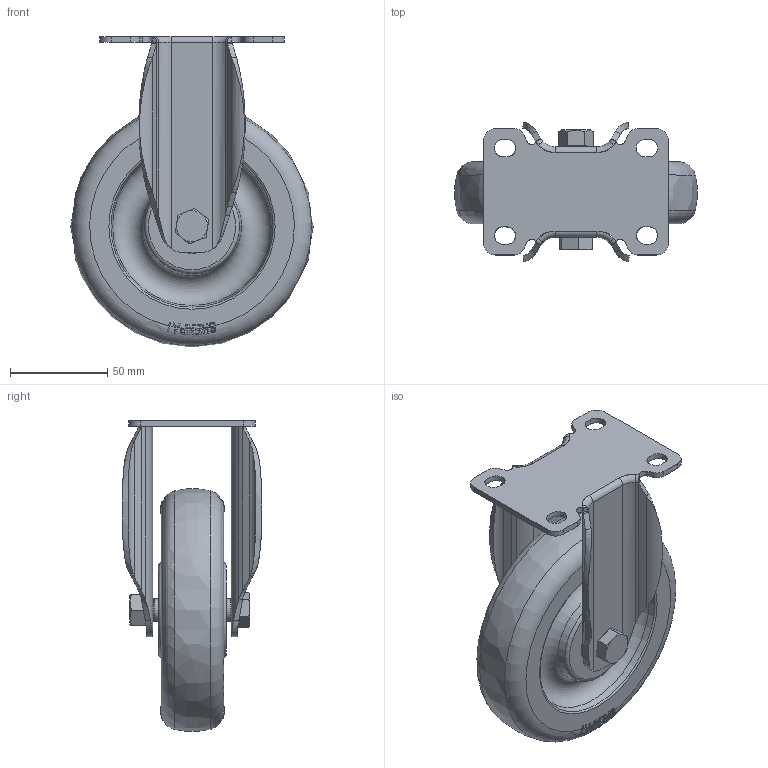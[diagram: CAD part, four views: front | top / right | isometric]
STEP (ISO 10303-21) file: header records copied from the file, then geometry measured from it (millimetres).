
FILE_DESCRIPTION(/* description */ (''),/* implementation_level */ '2;1');
FILE_NAME(/* name */ '20D12_5_F.stp',/* time_stamp */ '2022-10-17T12:47:06+08:00',/* author */ (''),/* organization */ (''),/* preprocessor_version */ 'ST-DEVELOPER v14',/* originating_system */ 'SIEMENS PLM Software NX 8.0',/* authorisation */ '');
FILE_SCHEMA (('AUTOMOTIVE_DESIGN { 1 0 10303 214 3 1 1 1 }'));
Length unit declared in the file: millimetre
Products named in the file (1): 20D12_5_F
Bounding box: 124.77 x 71.73 x 159.88 mm (x, y, z)
Volume: 370853.1 mm3; surface area: 79110.8 mm2
Topology: 1 solids, 2 shells, 642 faces, 1720 edges, 1120 vertices
Faces by surface type: plane 391, cylinder 112, torus 50, extrusion 47, bspline 25, cone 17
Full cylindrical faces by diameter (mm): 10 x2, 10.3 x2, 11.8 x3, 12 x1, 16.8 x1, 24 x1, 28 x2
Entity records: 23406 total; most frequent: CARTESIAN_POINT 8815, ORIENTED_EDGE 3322, DIRECTION 2451, EDGE_CURVE 1661, VERTEX_POINT 1101, AXIS2_PLACEMENT_3D 847, VECTOR 757, EDGE_LOOP 726
